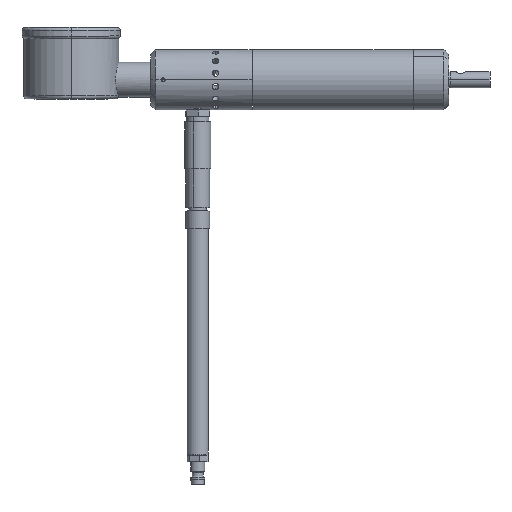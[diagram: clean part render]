
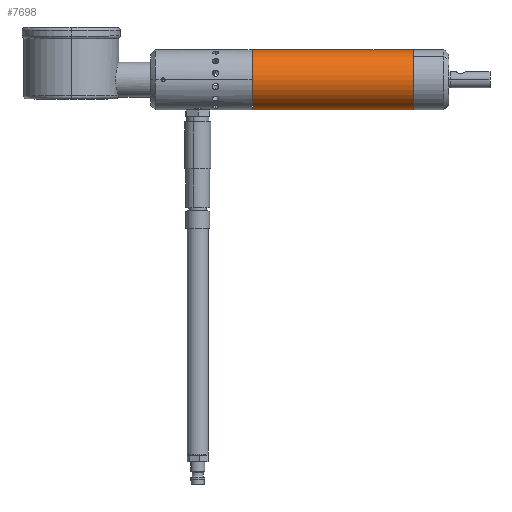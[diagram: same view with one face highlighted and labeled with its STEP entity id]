
A CAD part, left-side view. The second image highlights one B-rep face of the part: STEP entity #7698.
In plain terms, the highlighted cylindrical face has radius 19 mm (diameter 38 mm), a partial arc.
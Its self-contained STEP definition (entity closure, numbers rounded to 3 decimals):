
#437 = DIRECTION ( 'NONE',  ( 0., -1., 0. ) ) ;
#694 = LINE ( 'NONE', #3792, #3825 ) ;
#998 = VERTEX_POINT ( 'NONE', #7508 ) ;
#1131 = ORIENTED_EDGE ( 'NONE', *, *, #2856, .F. ) ;
#1229 = EDGE_CURVE ( 'NONE', #6179, #4149, #7258, .T. ) ;
#1421 = ORIENTED_EDGE ( 'NONE', *, *, #6689, .F. ) ;
#1493 = CARTESIAN_POINT ( 'NONE',  ( 0., 112., -19. ) ) ;
#1822 = AXIS2_PLACEMENT_3D ( 'NONE', #7142, #3182, #7796 ) ;
#1917 = CIRCLE ( 'NONE', #1822, 19. ) ;
#2139 = CARTESIAN_POINT ( 'NONE',  ( 0., 127.5, 0. ) ) ;
#2244 = CIRCLE ( 'NONE', #4142, 19. ) ;
#2343 = ORIENTED_EDGE ( 'NONE', *, *, #1229, .T. ) ;
#2400 = CARTESIAN_POINT ( 'NONE',  ( 0., 112., 0. ) ) ;
#2493 = ORIENTED_EDGE ( 'NONE', *, *, #4500, .F. ) ;
#2805 = DIRECTION ( 'NONE',  ( 0., -1., 0. ) ) ;
#2856 = EDGE_CURVE ( 'NONE', #6179, #7535, #2244, .T. ) ;
#3049 = DIRECTION ( 'NONE',  ( 0., 0., 1. ) ) ;
#3164 = DIRECTION ( 'NONE',  ( 0., -1., 0. ) ) ;
#3182 = DIRECTION ( 'NONE',  ( 0., -1., 0. ) ) ;
#3526 = VECTOR ( 'NONE', #437, 1000. ) ;
#3592 = CYLINDRICAL_SURFACE ( 'NONE', #6052, 19. ) ;
#3792 = CARTESIAN_POINT ( 'NONE',  ( 0., 127.5, 19. ) ) ;
#3825 = VECTOR ( 'NONE', #3164, 1000. ) ;
#3922 = EDGE_LOOP ( 'NONE', ( #2493, #1131, #2343, #1421 ) ) ;
#4142 = AXIS2_PLACEMENT_3D ( 'NONE', #2400, #7012, #3049 ) ;
#4149 = VERTEX_POINT ( 'NONE', #6198 ) ;
#4500 = EDGE_CURVE ( 'NONE', #7535, #998, #694, .T. ) ;
#5131 = CARTESIAN_POINT ( 'NONE',  ( 0., 127.5, -19. ) ) ;
#6052 = AXIS2_PLACEMENT_3D ( 'NONE', #2139, #2805, #8058 ) ;
#6179 = VERTEX_POINT ( 'NONE', #1493 ) ;
#6191 = FACE_OUTER_BOUND ( 'NONE', #3922, .T. ) ;
#6198 = CARTESIAN_POINT ( 'NONE',  ( 0., 11., -19. ) ) ;
#6689 = EDGE_CURVE ( 'NONE', #998, #4149, #1917, .T. ) ;
#7012 = DIRECTION ( 'NONE',  ( 0., 1., 0. ) ) ;
#7142 = CARTESIAN_POINT ( 'NONE',  ( 0., 11., 0. ) ) ;
#7258 = LINE ( 'NONE', #5131, #3526 ) ;
#7479 = CARTESIAN_POINT ( 'NONE',  ( 0., 112., 19. ) ) ;
#7508 = CARTESIAN_POINT ( 'NONE',  ( 0., 11., 19. ) ) ;
#7535 = VERTEX_POINT ( 'NONE', #7479 ) ;
#7698 = ADVANCED_FACE ( 'NONE', ( #6191 ), #3592, .T. ) ;
#7796 = DIRECTION ( 'NONE',  ( 0., 0., -1. ) ) ;
#8058 = DIRECTION ( 'NONE',  ( 0., 0., -1. ) ) ;
